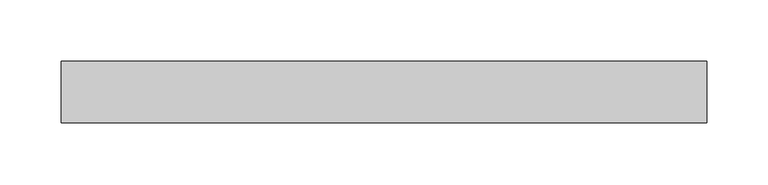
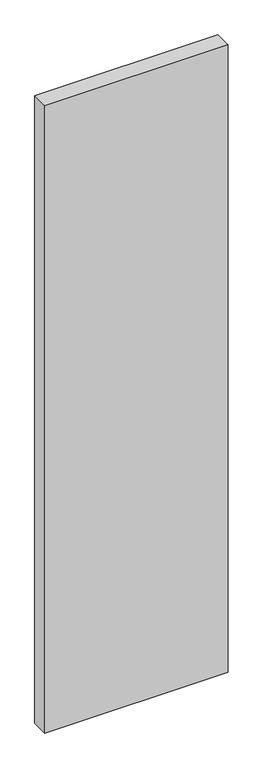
"""IFC4 building model written with IfcOpenShell, lengths in millimetres: plate geometry, Системная панель : Стекло(50мм)."""

import ifcopenshell
import ifcopenshell.guid

model = None  # the IFC model being written
_history = None  # IfcOwnerHistory: only IFC2X3 demands one
_inside = {}  # id of a spatial element -> (the spatial element, [elements in it])
_under = {}  # id of a project, library or spatial element -> (it, [spatial elements below it])
_declared = {}  # id of a project -> (the project, [libraries it declares])
_typed = {}  # id of a type object -> (the type object, [elements of that type])
_made_of = {}  # id of a material, layer set ... -> (it, [elements and type objects made of it])


def new_model(schema):
    """Start an empty IFC model of exactly this schema.

    Asked for "IFC4X3", IfcOpenShell would pick the latest addendum, in which some entities
    have other attributes; the version numbers below select the first issue.
    IFC2X3 requires an IfcOwnerHistory on every rooted entity: one is made here for all.
    """
    global model, _history
    if schema == "IFC4X3":
        model = ifcopenshell.file(schema_version=(4, 3, 0, 0))
    else:
        model = ifcopenshell.file(schema=schema)
    _inside.clear()
    _under.clear()
    _declared.clear()
    _typed.clear()
    _made_of.clear()
    _history = None
    if model.schema == "IFC2X3":
        org = make("IfcOrganization", Name="unknown")
        user = make(
            "IfcPersonAndOrganization",
            ThePerson=make("IfcPerson", FamilyName="unknown"),
            TheOrganization=org,
        )
        app = make(
            "IfcApplication",
            ApplicationDeveloper=org,
            Version="unknown",
            ApplicationFullName="unknown",
            ApplicationIdentifier="unknown",
        )
        _history = make(
            "IfcOwnerHistory",
            OwningUser=user,
            OwningApplication=app,
            ChangeAction="ADDED",
            CreationDate=0,
        )
    return model


def make(cls, **values):
    """One entity of the class cls with the attributes given. An attribute that is None is left unset."""
    return model.create_entity(
        cls, **{name: value for name, value in values.items() if value is not None}
    )


def rooted(cls, **values):
    """An entity with a GlobalId (a new one), such as an element, a storey or a relation."""
    return make(cls, GlobalId=ifcopenshell.guid.new(), OwnerHistory=_history, **values)


def si_unit(unit_type, name, prefix=None):
    """IfcSIUnit, for example si_unit("LENGTHUNIT", "METRE", prefix="MILLI")."""
    return make("IfcSIUnit", UnitType=unit_type, Prefix=prefix, Name=name)


def assignment(units):
    """IfcUnitAssignment: the units of a project."""
    return None if units is None else make("IfcUnitAssignment", Units=units)


def point(xyz):
    """IfcCartesianPoint."""
    return None if xyz is None else make("IfcCartesianPoint", Coordinates=xyz)


def direction(xyz):
    """IfcDirection."""
    return None if xyz is None else make("IfcDirection", DirectionRatios=xyz)


def frame(location, z_axis=None, x_axis=None):
    """IfcAxis2Placement3D, a coordinate frame: its origin and axes. An axis left out is left unset."""
    return make(
        "IfcAxis2Placement3D",
        Location=point(location),
        Axis=direction(z_axis),
        RefDirection=direction(x_axis),
    )


def origin():
    """The frame at (0, 0, 0) with its axes left unset."""
    return frame((0.0, 0.0, 0.0))


def origin_with_axes():
    """The frame at (0, 0, 0) with the z axis (0, 0, 1) and the x axis (1, 0, 0) written out."""
    return frame((0.0, 0.0, 0.0), z_axis=(0.0, 0.0, 1.0), x_axis=(1.0, 0.0, 0.0))


def place(relative_to, where):
    """IfcLocalPlacement: puts the frame where relative to a parent placement (None: the world)."""
    return make(
        "IfcLocalPlacement", PlacementRelTo=relative_to, RelativePlacement=where
    )


def context(
    kind, dimensions, precision=None, world=None, true_north=None, identifier=None
):
    """IfcGeometricRepresentationContext, for example the 3D "Model" context."""
    return make(
        "IfcGeometricRepresentationContext",
        ContextIdentifier=identifier,
        ContextType=kind,
        CoordinateSpaceDimension=dimensions,
        Precision=precision,
        WorldCoordinateSystem=world,
        TrueNorth=true_north,
    )


def project(units=None, contexts=None):
    """IfcProject with its units and contexts."""
    return rooted(
        "IfcProject",
        Name="project",
        RepresentationContexts=contexts,
        UnitsInContext=assignment(units),
    )


def spatial(cls, under=None, at=None, **own):
    """A site, building, storey or space (cls), placed at a placement, below another one or the project."""
    s = rooted(cls, ObjectPlacement=at, **own)
    if under is not None:
        _under.setdefault(under.id(), (under, []))[1].append(s)
    return s


def polyline(points):
    """IfcPolyline through the points."""
    return make("IfcPolyline", Points=[point(p) for p in points])


def outline(outer, holes=None, kind="AREA"):
    """IfcArbitraryClosedProfileDef: a profile drawn as a closed curve; with holes, ...WithVoids."""
    if holes is None:
        return make("IfcArbitraryClosedProfileDef", ProfileType=kind, OuterCurve=outer)
    return make(
        "IfcArbitraryProfileDefWithVoids",
        ProfileType=kind,
        OuterCurve=outer,
        InnerCurves=holes,
    )


def extrude(swept, where, along, depth):
    """IfcExtrudedAreaSolid: the profile swept, set in the frame where, extruded along a direction by depth."""
    return make(
        "IfcExtrudedAreaSolid",
        SweptArea=swept,
        Position=where,
        ExtrudedDirection=direction(along),
        Depth=depth,
    )


def shape(context_of_items, identifier, shape_type, items):
    """IfcShapeRepresentation: the items that make up one representation, for example the "Body"."""
    return make(
        "IfcShapeRepresentation",
        ContextOfItems=context_of_items,
        RepresentationIdentifier=identifier,
        RepresentationType=shape_type,
        Items=items,
    )


def source(mapping_origin, context_of_items, identifier, shape_type, items):
    """IfcRepresentationMap: a shape defined once, which mapped items show again and again."""
    return make(
        "IfcRepresentationMap",
        MappingOrigin=mapping_origin,
        MappedRepresentation=shape(context_of_items, identifier, shape_type, items),
    )


def transform(
    local_origin,
    x_axis=None,
    y_axis=None,
    z_axis=None,
    scale=None,
    scale2=None,
    scale3=None,
    uniform=True,
):
    """IfcCartesianTransformationOperator3D, or its non-uniform kind. x_axis, y_axis, z_axis: its Axis1, 2, 3."""
    if uniform:
        return make(
            "IfcCartesianTransformationOperator3D",
            Axis1=direction(x_axis),
            Axis2=direction(y_axis),
            LocalOrigin=point(local_origin),
            Scale=scale,
            Axis3=direction(z_axis),
        )
    return make(
        "IfcCartesianTransformationOperator3DnonUniform",
        Axis1=direction(x_axis),
        Axis2=direction(y_axis),
        LocalOrigin=point(local_origin),
        Scale=scale,
        Axis3=direction(z_axis),
        Scale2=scale2,
        Scale3=scale3,
    )


def mapped(mapping_source, mapping_target):
    """IfcMappedItem: shows the shape of a source again, moved by a transform."""
    return make(
        "IfcMappedItem", MappingSource=mapping_source, MappingTarget=mapping_target
    )


def made_of(thing, what):
    """Note that an element or type object is made of a material, layer set ...; save() writes the relation."""
    if what is not None:
        _made_of.setdefault(what.id(), (what, []))[1].append(thing)
    return thing


def element(
    cls,
    number,
    at=None,
    inside=None,
    cuts=None,
    type_object=None,
    material=None,
    context=None,
    identifier="Body",
    shape_type=None,
    held_by="IfcProductDefinitionShape",
    body=None,
    shapes=None,
    **own,
):
    """One element of the class cls, such as IfcWall. Its Tag is "e" and its number.

    at: its placement. inside: the storey or other place that contains it. cuts: it is an
    opening in that element (IfcRelVoidsElement). A single representation is given by context,
    identifier, shape_type and body (its items); several are given by shapes. held_by: the class
    of the entity that holds the representations. save() writes the other relations.
    """
    e = rooted(cls, Tag="e%d" % number, ObjectPlacement=at, **own)
    if body is not None:
        shapes = [shape(context, identifier, shape_type, body)]
    if shapes is not None:
        e.Representation = make(held_by, Representations=shapes)
    if inside is not None:
        _inside.setdefault(inside.id(), (inside, []))[1].append(e)
    if cuts is not None:
        rooted(
            "IfcRelVoidsElement", RelatingBuildingElement=cuts, RelatedOpeningElement=e
        )
    if type_object is not None:
        _typed.setdefault(type_object.id(), (type_object, []))[1].append(e)
    return made_of(e, material)


def aggregate(whole, parts):
    """IfcRelAggregates: a whole, such as a stair, and the parts it consists of."""
    return rooted("IfcRelAggregates", RelatingObject=whole, RelatedObjects=parts)


def save(model, path):
    """Write the relations noted so far, then the file.

    IfcRelAggregates (storeys below a building ...), IfcRelContainedInSpatialStructure (elements
    in a storey), IfcRelDefinesByType, IfcRelAssociatesMaterial and IfcRelDeclares: one each for
    every whole, place, type object, material and project.
    """
    for whole, parts in _under.values():
        aggregate(whole, parts)
    for where, things in _inside.values():
        rooted(
            "IfcRelContainedInSpatialStructure",
            RelatedElements=things,
            RelatingStructure=where,
        )
    for kind, things in _typed.values():
        rooted("IfcRelDefinesByType", RelatedObjects=things, RelatingType=kind)
    for what, things in _made_of.values():
        rooted("IfcRelAssociatesMaterial", RelatedObjects=things, RelatingMaterial=what)
    for by, libraries in _declared.values():
        rooted("IfcRelDeclares", RelatingContext=by, RelatedDefinitions=libraries)
    model.write(path)


def plate_dd9e7dd6(model_context):
    return source(origin(), model_context, "Body", "SweptSolid", [
        extrude(outline(polyline([(262.5, -25.0), (-262.5, -25.0), (-262.5, 25.0), (262.5, 25.0), (262.5, -25.0)])), origin_with_axes(), (0.0, 0.0, 1.0), 1900.0),
    ])


if __name__ == "__main__":
    model = new_model("IFC4")
    model_context = context("Model", 3, world=origin())
    ifc_project = project(units=[si_unit("LENGTHUNIT", "METRE", prefix="MILLI")], contexts=[model_context])
    site = spatial("IfcSite", under=ifc_project)
    building = spatial("IfcBuilding", under=site)
    placement = place(None, origin())
    plate_shape = plate_dd9e7dd6(model_context)
    element("IfcPlate", 1, ObjectType="Системная панель : Стекло(50мм)", at=placement, inside=building, context=model_context, shape_type="MappedRepresentation", body=[
        mapped(plate_shape, transform((0.0, 0.0, 0.0), x_axis=(1.0, 0.0, 0.0), y_axis=(0.0, 1.0, 0.0), z_axis=(0.0, 0.0, 1.0))),
    ])
    save(model, "model.ifc")
